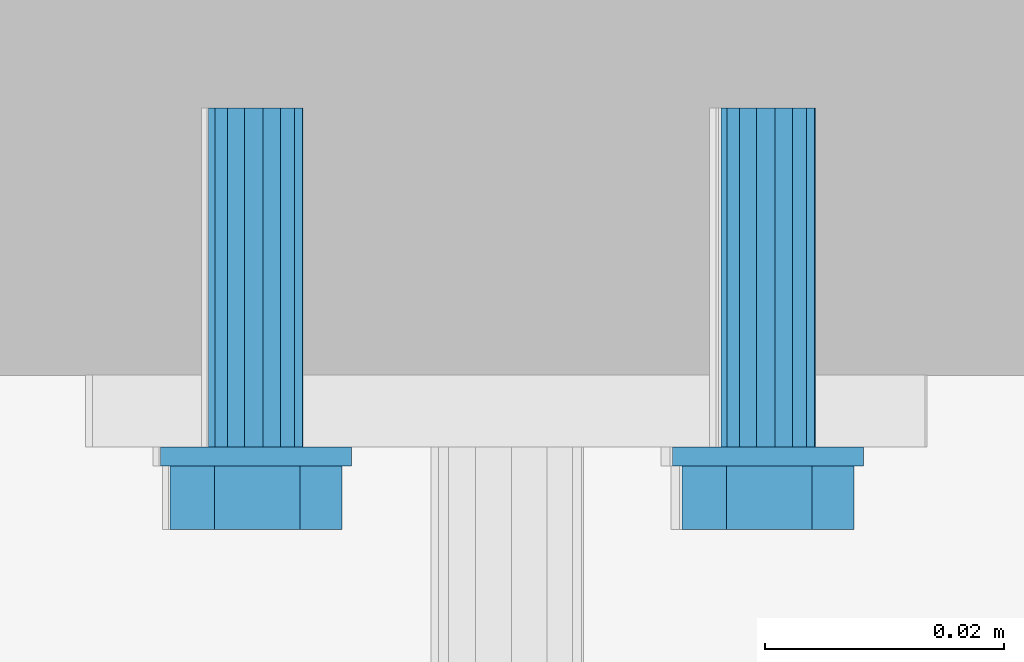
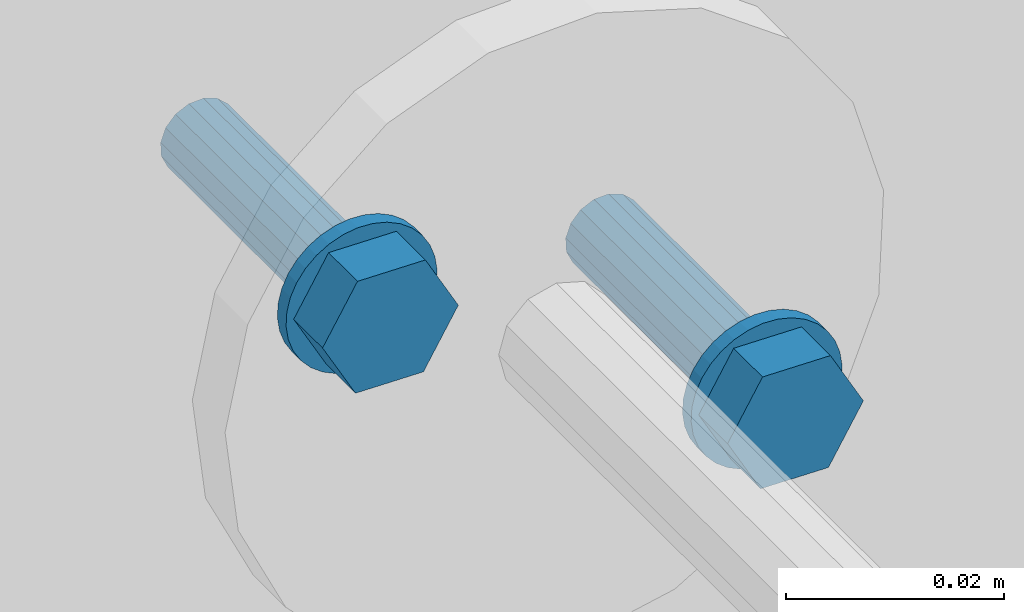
# One storey, part 359 of 410: 1 mechanical fastener.
"""IFC2X3 building model written with IfcOpenShell, lengths in millimetres."""

from ifc_helpers import new_model, entity, si_unit, converted_unit, origin_with_axes, place, context, project, spatial, faceted_brep, element, save


model = new_model("IFC2X3")

# Units and contexts
model_context = context("Model", 3, precision=1e-09, world=origin_with_axes())
ifc_project = project(units=[si_unit("LENGTHUNIT", "METRE", prefix="MILLI"), si_unit("AREAUNIT", "SQUARE_METRE"), si_unit("VOLUMEUNIT", "CUBIC_METRE"), converted_unit("PLANEANGLEUNIT", "DEGREE", entity("IfcPlaneAngleMeasure", 0.01745329), si_unit("PLANEANGLEUNIT", "RADIAN"), dimensions=[0, 0, 0, 0, 0, 0, 0])], contexts=[model_context])

# Site, building, storey
site_placement = place(None, origin_with_axes())
site = spatial("IfcSite", under=ifc_project, at=site_placement, Name="mKR Teilneubau & Sanierung BA1 - Ostfildern", CompositionType="ELEMENT")
building_placement = place(site_placement, origin_with_axes())
building = spatial("IfcBuilding", under=site, at=building_placement, Name="Struktur 1", CompositionType="ELEMENT")
storey_placement = place(building_placement, origin_with_axes())
storey = spatial("IfcBuildingStorey", under=building, at=storey_placement, Name="Default Storey", CompositionType="ELEMENT", Elevation=0.0)

# Mechanical fastener
mechanical_fastener_placement = place(None, origin_with_axes())
element("IfcMechanicalFastener", 1, at=mechanical_fastener_placement, inside=storey, ObjectType="-", NominalDiameter=8.0, NominalLength=30.0, context=model_context, shape_type="Brep", body=[
    faceted_brep([(1086.005525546, 18612.400061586, 3039.34092584), (1086.005525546, 18614.000061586, 3039.34092584), (1085.334664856, 18614.000061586, 3037.923382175), (1085.334664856, 18612.400061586, 3037.923382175), (1084.953243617, 18614.000061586, 3036.402197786), (1084.953243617, 18612.400061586, 3036.402197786), (1084.875919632, 18614.000061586, 3034.835830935), (1084.875919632, 18612.400061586, 3034.835830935), (1085.105664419, 18614.000061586, 3033.284476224), (1085.105664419, 18612.400061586, 3033.284476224), (1085.633649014, 18614.000061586, 3031.807751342), (1085.633649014, 18612.400061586, 3031.807751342), (1086.439583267, 18614.000061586, 3030.462406), (1086.439583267, 18612.400061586, 3030.462406), (1087.492495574, 18614.000061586, 3029.300141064), (1087.492495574, 18612.400061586, 3029.300141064), (1088.751923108, 18614.000061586, 3028.365621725), (1088.751923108, 18612.400061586, 3028.365621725), (1090.169466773, 18614.000061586, 3027.694761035), (1090.169466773, 18612.400061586, 3027.694761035), (1091.690651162, 18614.000061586, 3027.313339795), (1091.690651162, 18612.400061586, 3027.313339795), (1093.257018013, 18614.000061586, 3027.23601581), (1093.257018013, 18612.400061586, 3027.23601581), (1094.808372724, 18614.000061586, 3027.465760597), (1094.808372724, 18612.400061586, 3027.465760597), (1096.285097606, 18614.000061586, 3027.993745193), (1096.285097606, 18612.400061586, 3027.993745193), (1097.630442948, 18614.000061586, 3028.799679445), (1097.630442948, 18612.400061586, 3028.799679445), (1098.792707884, 18614.000061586, 3029.852591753), (1098.792707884, 18612.400061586, 3029.852591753), (1099.727227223, 18614.000061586, 3031.112019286), (1099.727227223, 18612.400061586, 3031.112019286), (1100.398087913, 18614.000061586, 3032.529562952), (1100.398087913, 18612.400061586, 3032.529562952), (1100.779509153, 18614.000061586, 3034.050747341), (1100.779509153, 18612.400061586, 3034.050747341), (1100.856833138, 18614.000061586, 3035.617114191), (1100.856833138, 18612.400061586, 3035.617114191), (1100.627088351, 18614.000061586, 3037.168468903), (1100.627088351, 18612.400061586, 3037.168468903), (1100.099103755, 18614.000061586, 3038.645193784), (1100.099103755, 18612.400061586, 3038.645193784), (1099.293169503, 18614.000061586, 3039.990539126), (1099.293169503, 18612.400061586, 3039.990539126), (1098.240257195, 18614.000061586, 3041.152804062), (1098.240257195, 18612.400061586, 3041.152804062), (1096.980829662, 18614.000061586, 3042.087323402), (1096.980829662, 18612.400061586, 3042.087323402), (1095.563285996, 18614.000061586, 3042.758184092), (1095.563285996, 18612.400061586, 3042.758184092), (1094.042101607, 18614.000061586, 3043.139605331), (1094.042101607, 18612.400061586, 3043.139605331), (1092.475734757, 18614.000061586, 3043.216929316), (1092.475734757, 18612.400061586, 3043.216929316), (1090.924380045, 18614.000061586, 3042.987184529), (1090.924380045, 18612.400061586, 3042.987184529), (1089.447655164, 18614.000061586, 3042.459199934), (1089.447655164, 18612.400061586, 3042.459199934), (1088.102309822, 18614.000061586, 3041.653265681), (1088.102309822, 18612.400061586, 3041.653265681), (1086.940044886, 18614.000061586, 3040.600353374), (1086.940044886, 18612.400061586, 3040.600353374)], [[[0, 1, 2, 3]], [[3, 2, 4, 5]], [[5, 4, 6, 7]], [[7, 6, 8, 9]], [[9, 8, 10, 11]], [[11, 10, 12, 13]], [[13, 12, 14, 15]], [[15, 14, 16, 17]], [[17, 16, 18, 19]], [[19, 18, 20, 21]], [[21, 20, 22, 23]], [[23, 22, 24, 25]], [[25, 24, 26, 27]], [[27, 26, 28, 29]], [[29, 28, 30, 31]], [[31, 30, 32, 33]], [[33, 32, 34, 35]], [[35, 34, 36, 37]], [[37, 36, 38, 39]], [[39, 38, 40, 41]], [[41, 40, 42, 43]], [[43, 42, 44, 45]], [[45, 44, 46, 47]], [[47, 46, 48, 49]], [[49, 48, 50, 51]], [[51, 50, 52, 53]], [[53, 52, 54, 55]], [[55, 54, 56, 57]], [[57, 56, 58, 59]], [[59, 58, 60, 61]], [[61, 60, 62, 63]], [[63, 62, 1, 0]], [[0, 3, 5, 7, 9, 11, 13, 15, 17, 19, 21, 23, 25, 27, 29, 31, 33, 35, 37, 39, 41, 43, 45, 47, 49, 51, 53, 55, 57, 59, 61, 63]], [[1, 62, 60, 58, 56, 54, 52, 50, 48, 46, 44, 42, 40, 38, 36, 34, 32, 30, 28, 26, 24, 22, 20, 18, 16, 14, 12, 10, 8, 6, 4, 2]]]),
    faceted_brep([(1043.125207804, 18612.400061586, 3065.056258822), (1043.125207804, 18614.000061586, 3065.056258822), (1042.454347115, 18614.000061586, 3063.638715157), (1042.454347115, 18612.400061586, 3063.638715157), (1042.072925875, 18614.000061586, 3062.117530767), (1042.072925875, 18612.400061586, 3062.117530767), (1041.99560189, 18614.000061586, 3060.551163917), (1041.99560189, 18612.400061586, 3060.551163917), (1042.225346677, 18614.000061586, 3058.999809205), (1042.225346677, 18612.400061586, 3058.999809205), (1042.753331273, 18614.000061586, 3057.523084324), (1042.753331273, 18612.400061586, 3057.523084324), (1043.559265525, 18614.000061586, 3056.177738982), (1043.559265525, 18612.400061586, 3056.177738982), (1044.612177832, 18614.000061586, 3055.015474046), (1044.612177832, 18612.400061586, 3055.015474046), (1045.871605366, 18614.000061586, 3054.080954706), (1045.871605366, 18612.400061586, 3054.080954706), (1047.289149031, 18614.000061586, 3053.410094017), (1047.289149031, 18612.400061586, 3053.410094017), (1048.810333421, 18614.000061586, 3053.028672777), (1048.810333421, 18612.400061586, 3053.028672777), (1050.376700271, 18614.000061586, 3052.951348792), (1050.376700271, 18612.400061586, 3052.951348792), (1051.928054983, 18614.000061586, 3053.181093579), (1051.928054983, 18612.400061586, 3053.181093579), (1053.404779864, 18614.000061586, 3053.709078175), (1053.404779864, 18612.400061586, 3053.709078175), (1054.750125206, 18614.000061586, 3054.515012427), (1054.750125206, 18612.400061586, 3054.515012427), (1055.912390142, 18614.000061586, 3055.567924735), (1055.912390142, 18612.400061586, 3055.567924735), (1056.846909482, 18614.000061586, 3056.827352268), (1056.846909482, 18612.400061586, 3056.827352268), (1057.517770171, 18614.000061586, 3058.244895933), (1057.517770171, 18612.400061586, 3058.244895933), (1057.899191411, 18614.000061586, 3059.766080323), (1057.899191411, 18612.400061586, 3059.766080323), (1057.976515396, 18614.000061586, 3061.332447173), (1057.976515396, 18612.400061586, 3061.332447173), (1057.746770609, 18614.000061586, 3062.883801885), (1057.746770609, 18612.400061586, 3062.883801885), (1057.218786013, 18614.000061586, 3064.360526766), (1057.218786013, 18612.400061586, 3064.360526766), (1056.412851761, 18614.000061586, 3065.705872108), (1056.412851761, 18612.400061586, 3065.705872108), (1055.359939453, 18614.000061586, 3066.868137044), (1055.359939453, 18612.400061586, 3066.868137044), (1054.10051192, 18614.000061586, 3067.802656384), (1054.10051192, 18612.400061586, 3067.802656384), (1052.682968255, 18614.000061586, 3068.473517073), (1052.682968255, 18612.400061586, 3068.473517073), (1051.161783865, 18614.000061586, 3068.854938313), (1051.161783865, 18612.400061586, 3068.854938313), (1049.595417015, 18614.000061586, 3068.932262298), (1049.595417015, 18612.400061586, 3068.932262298), (1048.044062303, 18614.000061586, 3068.702517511), (1048.044062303, 18612.400061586, 3068.702517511), (1046.567337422, 18614.000061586, 3068.174532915), (1046.567337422, 18612.400061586, 3068.174532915), (1045.22199208, 18614.000061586, 3067.368598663), (1045.22199208, 18612.400061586, 3067.368598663), (1044.059727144, 18614.000061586, 3066.315686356), (1044.059727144, 18612.400061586, 3066.315686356)], [[[0, 1, 2, 3]], [[3, 2, 4, 5]], [[5, 4, 6, 7]], [[7, 6, 8, 9]], [[9, 8, 10, 11]], [[11, 10, 12, 13]], [[13, 12, 14, 15]], [[15, 14, 16, 17]], [[17, 16, 18, 19]], [[19, 18, 20, 21]], [[21, 20, 22, 23]], [[23, 22, 24, 25]], [[25, 24, 26, 27]], [[27, 26, 28, 29]], [[29, 28, 30, 31]], [[31, 30, 32, 33]], [[33, 32, 34, 35]], [[35, 34, 36, 37]], [[37, 36, 38, 39]], [[39, 38, 40, 41]], [[41, 40, 42, 43]], [[43, 42, 44, 45]], [[45, 44, 46, 47]], [[47, 46, 48, 49]], [[49, 48, 50, 51]], [[51, 50, 52, 53]], [[53, 52, 54, 55]], [[55, 54, 56, 57]], [[57, 56, 58, 59]], [[59, 58, 60, 61]], [[61, 60, 62, 63]], [[63, 62, 1, 0]], [[0, 3, 5, 7, 9, 11, 13, 15, 17, 19, 21, 23, 25, 27, 29, 31, 33, 35, 37, 39, 41, 43, 45, 47, 49, 51, 53, 55, 57, 59, 61, 63]], [[1, 62, 60, 58, 56, 54, 52, 50, 48, 46, 44, 42, 40, 38, 36, 34, 32, 30, 28, 26, 24, 22, 20, 18, 16, 14, 12, 10, 8, 6, 4, 2]]]),
    faceted_brep([(1096.357520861, 18612.400061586, 3028.940932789), (1096.357520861, 18607.100061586, 3028.940932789), (1089.168511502, 18607.100061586, 3029.060282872), (1089.168511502, 18612.400061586, 3029.060282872), (1085.677367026, 18607.100061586, 3035.345822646), (1085.677367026, 18612.400061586, 3035.345822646), (1089.375231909, 18607.100061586, 3041.512012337), (1089.375231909, 18612.400061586, 3041.512012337), (1096.564241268, 18607.100061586, 3041.392662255), (1096.564241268, 18612.400061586, 3041.392662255), (1100.055385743, 18607.100061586, 3035.107122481), (1100.055385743, 18612.400061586, 3035.107122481)], [[[0, 1, 2, 3]], [[3, 2, 4, 5]], [[5, 4, 6, 7]], [[7, 6, 8, 9]], [[9, 8, 10, 11]], [[11, 10, 1, 0]], [[4, 2, 1, 10, 8, 6]], [[0, 3, 5, 7, 9, 11]]]),
    faceted_brep([(1053.477203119, 18612.400061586, 3054.656265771), (1053.477203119, 18607.100061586, 3054.656265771), (1046.28819376, 18607.100061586, 3054.775615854), (1046.28819376, 18612.400061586, 3054.775615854), (1042.797049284, 18607.100061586, 3061.061155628), (1042.797049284, 18612.400061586, 3061.061155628), (1046.494914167, 18607.100061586, 3067.227345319), (1046.494914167, 18612.400061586, 3067.227345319), (1053.683923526, 18607.100061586, 3067.107995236), (1053.683923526, 18612.400061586, 3067.107995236), (1057.175068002, 18607.100061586, 3060.822455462), (1057.175068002, 18612.400061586, 3060.822455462)], [[[0, 1, 2, 3]], [[3, 2, 4, 5]], [[5, 4, 6, 7]], [[7, 6, 8, 9]], [[9, 8, 10, 11]], [[11, 10, 1, 0]], [[4, 2, 1, 10, 8, 6]], [[0, 3, 5, 7, 9, 11]]]),
    faceted_brep([(1089.435950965, 18614.000061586, 3037.283699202), (1089.435950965, 18624.000061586, 3037.283699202), (1088.909810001, 18624.000061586, 3035.814335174), (1088.909810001, 18614.000061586, 3035.814335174), (1088.986020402, 18624.000061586, 3034.255474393), (1088.986020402, 18614.000061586, 3034.255474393), (1089.652979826, 18624.000061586, 3032.844439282), (1089.652979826, 18614.000061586, 3032.844439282), (1090.809149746, 18624.000061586, 3031.796047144), (1090.809149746, 18614.000061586, 3031.796047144), (1092.278513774, 18624.000061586, 3031.269906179), (1092.278513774, 18614.000061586, 3031.269906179), (1093.837374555, 18624.000061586, 3031.34611658), (1093.837374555, 18614.000061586, 3031.34611658), (1095.248409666, 18624.000061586, 3032.013076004), (1095.248409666, 18614.000061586, 3032.013076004), (1096.296801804, 18624.000061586, 3033.169245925), (1096.296801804, 18614.000061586, 3033.169245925), (1096.822942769, 18624.000061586, 3034.638609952), (1096.822942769, 18614.000061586, 3034.638609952), (1096.746732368, 18624.000061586, 3036.197470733), (1096.746732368, 18614.000061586, 3036.197470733), (1096.079772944, 18624.000061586, 3037.608505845), (1096.079772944, 18614.000061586, 3037.608505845), (1094.923603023, 18624.000061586, 3038.656897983), (1094.923603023, 18614.000061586, 3038.656897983), (1093.454238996, 18624.000061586, 3039.183038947), (1093.454238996, 18614.000061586, 3039.183038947), (1091.895378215, 18624.000061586, 3039.106828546), (1091.895378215, 18614.000061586, 3039.106828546), (1090.484343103, 18624.000061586, 3038.439869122), (1090.484343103, 18614.000061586, 3038.439869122)], [[[0, 1, 2, 3]], [[3, 2, 4, 5]], [[5, 4, 6, 7]], [[7, 6, 8, 9]], [[9, 8, 10, 11]], [[11, 10, 12, 13]], [[13, 12, 14, 15]], [[15, 14, 16, 17]], [[17, 16, 18, 19]], [[19, 18, 20, 21]], [[21, 20, 22, 23]], [[23, 22, 24, 25]], [[25, 24, 26, 27]], [[27, 26, 28, 29]], [[29, 28, 30, 31]], [[31, 30, 1, 0]], [[0, 3, 5, 7, 9, 11, 13, 15, 17, 19, 21, 23, 25, 27, 29, 31]], [[1, 30, 28, 26, 24, 22, 20, 18, 16, 14, 12, 10, 8, 6, 4, 2]]]),
    faceted_brep([(1046.555633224, 18614.000061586, 3062.999032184), (1046.555633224, 18624.000061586, 3062.999032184), (1046.029492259, 18624.000061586, 3061.529668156), (1046.029492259, 18614.000061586, 3061.529668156), (1046.10570266, 18624.000061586, 3059.970807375), (1046.10570266, 18614.000061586, 3059.970807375), (1046.772662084, 18624.000061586, 3058.559772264), (1046.772662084, 18614.000061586, 3058.559772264), (1047.928832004, 18624.000061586, 3057.511380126), (1047.928832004, 18614.000061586, 3057.511380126), (1049.398196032, 18624.000061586, 3056.985239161), (1049.398196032, 18614.000061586, 3056.985239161), (1050.957056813, 18624.000061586, 3057.061449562), (1050.957056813, 18614.000061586, 3057.061449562), (1052.368091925, 18624.000061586, 3057.728408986), (1052.368091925, 18614.000061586, 3057.728408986), (1053.416484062, 18624.000061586, 3058.884578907), (1053.416484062, 18614.000061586, 3058.884578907), (1053.942625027, 18624.000061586, 3060.353942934), (1053.942625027, 18614.000061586, 3060.353942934), (1053.866414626, 18624.000061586, 3061.912803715), (1053.866414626, 18614.000061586, 3061.912803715), (1053.199455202, 18624.000061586, 3063.323838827), (1053.199455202, 18614.000061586, 3063.323838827), (1052.043285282, 18624.000061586, 3064.372230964), (1052.043285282, 18614.000061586, 3064.372230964), (1050.573921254, 18624.000061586, 3064.898371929), (1050.573921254, 18614.000061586, 3064.898371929), (1049.015060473, 18624.000061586, 3064.822161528), (1049.015060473, 18614.000061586, 3064.822161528), (1047.604025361, 18624.000061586, 3064.155202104), (1047.604025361, 18614.000061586, 3064.155202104)], [[[0, 1, 2, 3]], [[3, 2, 4, 5]], [[5, 4, 6, 7]], [[7, 6, 8, 9]], [[9, 8, 10, 11]], [[11, 10, 12, 13]], [[13, 12, 14, 15]], [[15, 14, 16, 17]], [[17, 16, 18, 19]], [[19, 18, 20, 21]], [[21, 20, 22, 23]], [[23, 22, 24, 25]], [[25, 24, 26, 27]], [[27, 26, 28, 29]], [[29, 28, 30, 31]], [[31, 30, 1, 0]], [[0, 3, 5, 7, 9, 11, 13, 15, 17, 19, 21, 23, 25, 27, 29, 31]], [[1, 30, 28, 26, 24, 22, 20, 18, 16, 14, 12, 10, 8, 6, 4, 2]]]),
    faceted_brep([(1089.435950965, 18624.000061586, 3037.283699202), (1089.435950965, 18642.400061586, 3037.283699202), (1088.909810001, 18642.400061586, 3035.814335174), (1088.909810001, 18624.000061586, 3035.814335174), (1088.986020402, 18642.400061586, 3034.255474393), (1088.986020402, 18624.000061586, 3034.255474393), (1089.652979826, 18642.400061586, 3032.844439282), (1089.652979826, 18624.000061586, 3032.844439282), (1090.809149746, 18642.400061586, 3031.796047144), (1090.809149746, 18624.000061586, 3031.796047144), (1092.278513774, 18642.400061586, 3031.269906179), (1092.278513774, 18624.000061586, 3031.269906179), (1093.837374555, 18642.400061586, 3031.34611658), (1093.837374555, 18624.000061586, 3031.34611658), (1095.248409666, 18642.400061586, 3032.013076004), (1095.248409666, 18624.000061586, 3032.013076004), (1096.296801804, 18642.400061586, 3033.169245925), (1096.296801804, 18624.000061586, 3033.169245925), (1096.822942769, 18642.400061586, 3034.638609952), (1096.822942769, 18624.000061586, 3034.638609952), (1096.746732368, 18642.400061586, 3036.197470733), (1096.746732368, 18624.000061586, 3036.197470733), (1096.079772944, 18642.400061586, 3037.608505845), (1096.079772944, 18624.000061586, 3037.608505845), (1094.923603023, 18642.400061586, 3038.656897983), (1094.923603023, 18624.000061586, 3038.656897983), (1093.454238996, 18642.400061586, 3039.183038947), (1093.454238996, 18624.000061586, 3039.183038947), (1091.895378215, 18642.400061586, 3039.106828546), (1091.895378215, 18624.000061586, 3039.106828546), (1090.484343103, 18642.400061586, 3038.439869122), (1090.484343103, 18624.000061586, 3038.439869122)], [[[0, 1, 2, 3]], [[3, 2, 4, 5]], [[5, 4, 6, 7]], [[7, 6, 8, 9]], [[9, 8, 10, 11]], [[11, 10, 12, 13]], [[13, 12, 14, 15]], [[15, 14, 16, 17]], [[17, 16, 18, 19]], [[19, 18, 20, 21]], [[21, 20, 22, 23]], [[23, 22, 24, 25]], [[25, 24, 26, 27]], [[27, 26, 28, 29]], [[29, 28, 30, 31]], [[31, 30, 1, 0]], [[0, 3, 5, 7, 9, 11, 13, 15, 17, 19, 21, 23, 25, 27, 29, 31]], [[1, 30, 28, 26, 24, 22, 20, 18, 16, 14, 12, 10, 8, 6, 4, 2]]]),
    faceted_brep([(1046.555633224, 18624.000061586, 3062.999032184), (1046.555633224, 18642.400061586, 3062.999032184), (1046.029492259, 18642.400061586, 3061.529668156), (1046.029492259, 18624.000061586, 3061.529668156), (1046.10570266, 18642.400061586, 3059.970807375), (1046.10570266, 18624.000061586, 3059.970807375), (1046.772662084, 18642.400061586, 3058.559772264), (1046.772662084, 18624.000061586, 3058.559772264), (1047.928832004, 18642.400061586, 3057.511380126), (1047.928832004, 18624.000061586, 3057.511380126), (1049.398196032, 18642.400061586, 3056.985239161), (1049.398196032, 18624.000061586, 3056.985239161), (1050.957056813, 18642.400061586, 3057.061449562), (1050.957056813, 18624.000061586, 3057.061449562), (1052.368091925, 18642.400061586, 3057.728408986), (1052.368091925, 18624.000061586, 3057.728408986), (1053.416484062, 18642.400061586, 3058.884578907), (1053.416484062, 18624.000061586, 3058.884578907), (1053.942625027, 18642.400061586, 3060.353942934), (1053.942625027, 18624.000061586, 3060.353942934), (1053.866414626, 18642.400061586, 3061.912803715), (1053.866414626, 18624.000061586, 3061.912803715), (1053.199455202, 18642.400061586, 3063.323838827), (1053.199455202, 18624.000061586, 3063.323838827), (1052.043285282, 18642.400061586, 3064.372230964), (1052.043285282, 18624.000061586, 3064.372230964), (1050.573921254, 18642.400061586, 3064.898371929), (1050.573921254, 18624.000061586, 3064.898371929), (1049.015060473, 18642.400061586, 3064.822161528), (1049.015060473, 18624.000061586, 3064.822161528), (1047.604025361, 18642.400061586, 3064.155202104), (1047.604025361, 18624.000061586, 3064.155202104)], [[[0, 1, 2, 3]], [[3, 2, 4, 5]], [[5, 4, 6, 7]], [[7, 6, 8, 9]], [[9, 8, 10, 11]], [[11, 10, 12, 13]], [[13, 12, 14, 15]], [[15, 14, 16, 17]], [[17, 16, 18, 19]], [[19, 18, 20, 21]], [[21, 20, 22, 23]], [[23, 22, 24, 25]], [[25, 24, 26, 27]], [[27, 26, 28, 29]], [[29, 28, 30, 31]], [[31, 30, 1, 0]], [[0, 3, 5, 7, 9, 11, 13, 15, 17, 19, 21, 23, 25, 27, 29, 31]], [[1, 30, 28, 26, 24, 22, 20, 18, 16, 14, 12, 10, 8, 6, 4, 2]]]),
])

save(model, "model.ifc")
